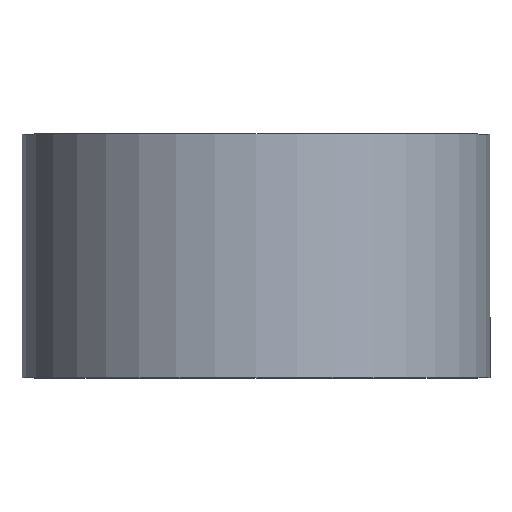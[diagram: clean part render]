
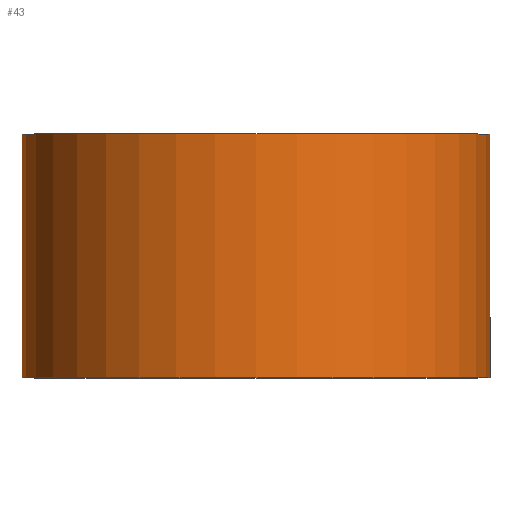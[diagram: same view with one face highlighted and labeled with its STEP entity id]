
A CAD part, top view. The second image highlights one B-rep face of the part: STEP entity #43.
In plain terms, the highlighted cylindrical face has radius 24 mm (diameter 48 mm), a partial arc.
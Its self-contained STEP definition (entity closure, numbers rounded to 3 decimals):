
#4 = EDGE_LOOP ( 'NONE', ( #64, #94, #147, #187 ) ) ;
#7 = CARTESIAN_POINT ( 'NONE',  ( 0., 0., 0. ) ) ;
#17 = VERTEX_POINT ( 'NONE', #233 ) ;
#25 = EDGE_CURVE ( 'NONE', #131, #17, #101, .T. ) ;
#28 = DIRECTION ( 'NONE',  ( -1., 0., 0. ) ) ;
#33 = CARTESIAN_POINT ( 'NONE',  ( 24., 0., 0. ) ) ;
#34 = VECTOR ( 'NONE', #143, 1000. ) ;
#43 = ADVANCED_FACE ( 'NONE', ( #165 ), #108, .T. ) ;
#52 = CARTESIAN_POINT ( 'NONE',  ( 0., 0., 0. ) ) ;
#53 = AXIS2_PLACEMENT_3D ( 'NONE', #217, #84, #28 ) ;
#64 = ORIENTED_EDGE ( 'NONE', *, *, #118, .T. ) ;
#82 = CARTESIAN_POINT ( 'NONE',  ( 24., 25., 0. ) ) ;
#84 = DIRECTION ( 'NONE',  ( 0., 1., 0. ) ) ;
#94 = ORIENTED_EDGE ( 'NONE', *, *, #102, .T. ) ;
#101 = LINE ( 'NONE', #253, #297 ) ;
#102 = EDGE_CURVE ( 'NONE', #239, #114, #220, .T. ) ;
#105 = EDGE_CURVE ( 'NONE', #17, #114, #216, .T. ) ;
#106 = DIRECTION ( 'NONE',  ( 0., 1., 0. ) ) ;
#108 = CYLINDRICAL_SURFACE ( 'NONE', #238, 24. ) ;
#114 = VERTEX_POINT ( 'NONE', #82 ) ;
#118 = EDGE_CURVE ( 'NONE', #131, #239, #285, .T. ) ;
#131 = VERTEX_POINT ( 'NONE', #213 ) ;
#143 = DIRECTION ( 'NONE',  ( 0., 1., 0. ) ) ;
#147 = ORIENTED_EDGE ( 'NONE', *, *, #105, .F. ) ;
#149 = DIRECTION ( 'NONE',  ( -1., 0., 0. ) ) ;
#165 = FACE_OUTER_BOUND ( 'NONE', #4, .T. ) ;
#187 = ORIENTED_EDGE ( 'NONE', *, *, #25, .F. ) ;
#204 = CARTESIAN_POINT ( 'NONE',  ( 24., 0., 0. ) ) ;
#209 = AXIS2_PLACEMENT_3D ( 'NONE', #7, #106, #149 ) ;
#213 = CARTESIAN_POINT ( 'NONE',  ( -24., 0., 0. ) ) ;
#216 = CIRCLE ( 'NONE', #53, 24. ) ;
#217 = CARTESIAN_POINT ( 'NONE',  ( 0., 25., 0. ) ) ;
#220 = LINE ( 'NONE', #204, #34 ) ;
#233 = CARTESIAN_POINT ( 'NONE',  ( -24., 25., 0. ) ) ;
#238 = AXIS2_PLACEMENT_3D ( 'NONE', #52, #280, #256 ) ;
#239 = VERTEX_POINT ( 'NONE', #33 ) ;
#253 = CARTESIAN_POINT ( 'NONE',  ( -24., 0., 0. ) ) ;
#256 = DIRECTION ( 'NONE',  ( -1., 0., 0. ) ) ;
#274 = DIRECTION ( 'NONE',  ( 0., 1., 0. ) ) ;
#280 = DIRECTION ( 'NONE',  ( 0., 1., 0. ) ) ;
#285 = CIRCLE ( 'NONE', #209, 24. ) ;
#297 = VECTOR ( 'NONE', #274, 1000. ) ;
